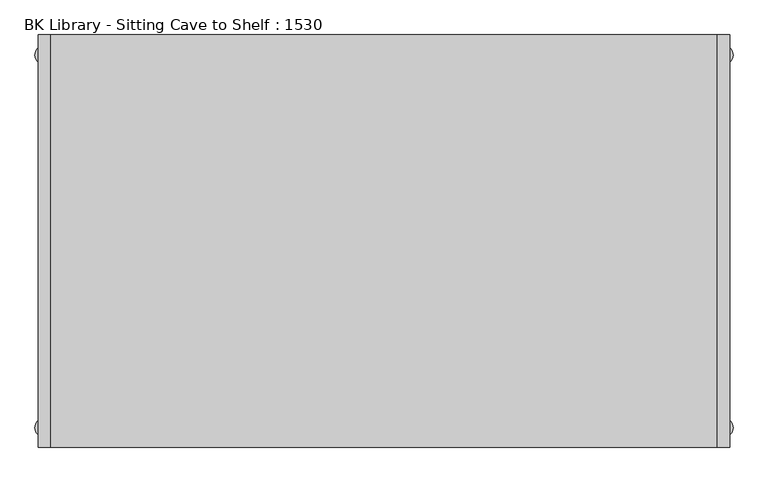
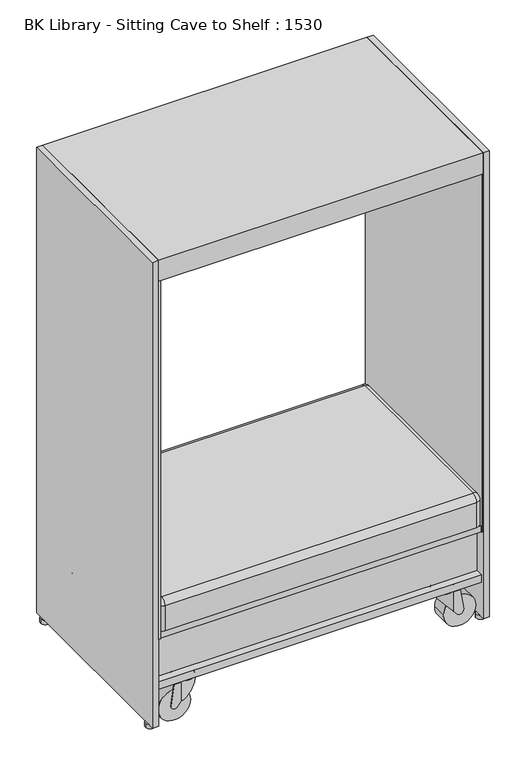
"""IFC4 building model written with IfcOpenShell, lengths in millimetres: furniture geometry, BK Library - Sitting Cave to Shelf : 1530."""

from ifc_helpers import new_model, si_unit, point, frame, frame_2d, origin, origin_with_axes, place, context, project, spatial, polyline, circle_curve, ellipse_curve, trimmed, segment, composite_curve, outline, extrude, source, transform, mapped, element, save
from ifc_brep_helpers import plane_surface, cylinder_surface, revolved_surface, advanced_brep


def bk_library_sitting_cave_to_shelf_1530_a43be609(model_context):
    return source(origin(), model_context, "Body", "SolidModel", [
        extrude(outline(polyline([(-495.0, -310.0), (-500.0, -310.0), (-500.0, 310.0), (-495.0, 310.0), (-495.0, -310.0)])), frame((0.0, 0.0, 297.2000122), z_axis=(0.0, 0.0, 1.0), x_axis=(1.0, 0.0, 0.0)), (0.0, 0.0, 1.0), 1164.7999878),
        extrude(outline(polyline([(500.0, -310.0), (495.0, -310.0), (495.0, 310.0), (500.0, 310.0), (500.0, -310.0)])), frame((0.0, 0.0, 297.2000122), z_axis=(0.0, 0.0, 1.0), x_axis=(1.0, 0.0, 0.0)), (0.0, 0.0, 1.0), 1164.7999878),
        advanced_brep(
        [(441.5692168, 239.3557934, 116.3900038), (396.5692168, 239.3557934, 116.3900038), (396.5692168, 239.3557934, 81.8416749), (430.7173665, 239.3557934, 41.8401668), (451.0862367, 239.3557934, 51.0748876), (441.5692168, 290.2974347, 116.3900038), (451.0862367, 290.2974347, 51.0748876), (430.7173665, 290.2974347, 41.8401668), (396.5692168, 290.2974347, 81.8416749), (396.5692168, 290.2974347, 116.3900038), (430.7173665, 287.9389408, 41.8401668), (404.1507804, 287.9389408, 72.9605501), (404.1507804, 241.7142873, 72.9605501), (430.7173665, 241.7142873, 41.8401668), (451.0862367, 241.7142873, 51.0748876), (451.0862367, 287.9389408, 51.0748876), (441.9320335, 241.7142873, 113.8999998), (441.9320335, 287.9389408, 113.8999998), (404.1507804, 287.9389408, 113.8999998), (404.1507804, 241.7142873, 113.8999998)],
        [
            (0, 1),
            (1, 2),
            (2, 3),
            (3, 4, circle_curve(frame((439.5692324, 239.3557934, 49.3967529), z_axis=(0.0, -1.0, 0.0), x_axis=(1.0, 0.0, 0.0)), 11.6386221)),
            (4, 0),
            (5, 6),
            (6, 7, circle_curve(frame((439.5692324, 290.2974347, 49.3967529), z_axis=(0.0, 1.0, 0.0), x_axis=(1.0, 0.0, 0.0)), 11.6386221)),
            (7, 8),
            (8, 9),
            (9, 5),
            (0, 5),
            (9, 1),
            (8, 2),
            (7, 10),
            (10, 11),
            (11, 12),
            (12, 13),
            (13, 3),
            (13, 14, circle_curve(frame((439.5692324, 241.7142873, 49.3967529), z_axis=(0.0, -1.0, 0.0), x_axis=(1.0, 0.0, 0.0)), 11.6386221)),
            (14, 4),
            (6, 15),
            (15, 10, circle_curve(frame((439.5692324, 287.9389408, 49.3967529), z_axis=(0.0, 1.0, 0.0), x_axis=(1.0, 0.0, 0.0)), 11.6386221)),
            (14, 16),
            (16, 17),
            (17, 15),
            (18, 19),
            (19, 12),
            (11, 18),
            (19, 16),
            (18, 17),
        ],
        [
            plane_surface(frame((441.5692168, 239.3557934, 116.3900038), z_axis=(0.0, -1.0, 0.0), x_axis=(-1.0, 0.0, 0.0))),
            plane_surface(frame((441.5692168, 290.2974347, 116.3900038), z_axis=(0.0, 1.0, 0.0), x_axis=(1.0, 0.0, 0.0))),
            plane_surface(frame((441.5692168, 239.3557934, 116.3900038), z_axis=(0.0, 0.0, 1.0), x_axis=(0.0, 1.0, 0.0))),
            plane_surface(frame((396.5692168, 239.3557934, 116.3900038), z_axis=(-1.0, 0.0, 0.0), x_axis=(0.0, 1.0, 0.0))),
            plane_surface(frame((396.5692168, 239.3557934, 81.8416749), z_axis=(-0.76055961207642, 0.0, -0.649268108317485), x_axis=(0.0, 1.0, 0.0))),
            cylinder_surface(frame((439.5692324, 290.2974347, 49.3967529), z_axis=(0.0, -1.0, 0.0), x_axis=(1.0, 0.0, 0.0)), 11.6386221),
            plane_surface(frame((451.0862367, 239.3557934, 51.0748876), z_axis=(0.9895505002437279, 0.0, 0.14418671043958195), x_axis=(0.0, 1.0, 0.0))),
            plane_surface(frame((404.1507804, 287.9389408, 11.6999998), z_axis=(1.0, 0.0, 0.0), x_axis=(0.0, -1.0, 0.0))),
            plane_surface(frame((465.1635235, 241.7142873, 113.8999998), z_axis=(0.0, 1.0, 0.0), x_axis=(-1.0, 0.0, 0.0))),
            plane_surface(frame((465.1635235, 287.9389408, 113.8999998), z_axis=(0.0, 0.0, -1.0), x_axis=(-1.0, 0.0, 0.0))),
            plane_surface(frame((465.1635235, 287.9389408, 11.6999998), z_axis=(0.0, -1.0, 0.0), x_axis=(-1.0, 0.0, 0.0))),
        ],
        [
            (0, [[1, 2, 3, 4, 5]]),
            (1, [[6, 7, 8, 9, 10]]),
            (2, [[-1, 11, -10, 12]]),
            (3, [[-2, -12, -9, 13]]),
            (4, [[-3, -13, -8, 14, 15, 16, 17, 18]]),
            (5, [[-4, -18, 19, 20]]),
            (5, [[-7, 21, 22, -14]]),
            (6, [[-5, -20, 23, 24, 25, -21, -6, -11]]),
            (7, [[26, 27, -16, 28]]),
            (8, [[-27, 29, -23, -19, -17]]),
            (9, [[-26, 30, -24, -29]]),
            (10, [[-28, -15, -22, -25, -30]]),
        ],
    ),
        advanced_brep(
        [(367.1443326, 264.8730954, 121.6226045), (432.1265574, 264.8730954, 121.6226045), (432.1265574, 264.8730954, 44.4908375), (428.4545643, 279.8774531, 44.4908375), (369.8467405, 277.8463552, 113.1446696), (367.1443326, 264.8730954, 113.1446696), (369.8467405, 251.8998355, 113.1446696), (428.4545643, 249.8687376, 44.4908375), (428.4545643, 264.8730954, 44.4908375), (425.1265574, 264.8730954, 128.6226045), (374.1443326, 264.8730954, 128.6226045), (399.635445, 264.8730954, 128.6226045)],
        [
            (0, 1, circle_curve(frame((399.635445, 264.8730954, 121.6226045), z_axis=(0.0, 0.0, -1.0), x_axis=(-1.0, 0.0, 0.0)), 32.4911124)),
            (1, 2),
            (2, 3, circle_curve(frame((399.635445, 264.8730954, 44.4908375), z_axis=(0.0, 0.0, 1.0), x_axis=(-1.0, 0.0, 0.0)), 32.4911124)),
            (3, 4, ellipse_curve(frame((399.635445, 264.8730954, 78.2498623), z_axis=(0.76055961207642, 0.0, 0.649268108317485), x_axis=(0.649268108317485, 0.0, -0.76055961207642)), 50.0426742, 32.4911124)),
            (4, 5, circle_curve(frame((399.635445, 264.8730954, 113.1446696), z_axis=(0.0, 0.0, 1.0), x_axis=(-1.0, 0.0, 0.0)), 32.4911124)),
            (5, 0),
            (1, 0, circle_curve(frame((399.635445, 264.8730954, 121.6226045), z_axis=(0.0, 0.0, -1.0), x_axis=(-1.0, 0.0, 0.0)), 32.4911124)),
            (5, 6, circle_curve(frame((399.635445, 264.8730954, 113.1446696), z_axis=(0.0, 0.0, 1.0), x_axis=(-1.0, 0.0, 0.0)), 32.4911124)),
            (6, 7, ellipse_curve(frame((399.635445, 264.8730954, 78.2498623), z_axis=(0.76055961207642, 0.0, 0.649268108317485), x_axis=(0.649268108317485, 0.0, -0.76055961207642)), 50.0426742, 32.4911124)),
            (7, 2, circle_curve(frame((399.635445, 264.8730954, 44.4908375), z_axis=(0.0, 0.0, 1.0), x_axis=(-1.0, 0.0, 0.0)), 32.4911124)),
            (2, 8),
            (8, 3),
            (7, 8),
            (9, 10, circle_curve(frame((399.635445, 264.8730954, 128.6226045), z_axis=(0.0, 0.0, 1.0), x_axis=(-1.0, 0.0, 0.0)), 25.4911124)),
            (10, 11),
            (11, 9),
            (10, 9, circle_curve(frame((399.635445, 264.8730954, 128.6226045), z_axis=(0.0, 0.0, 1.0), x_axis=(-1.0, 0.0, 0.0)), 25.4911124)),
            (0, 10, circle_curve(frame((374.1443326, 264.8730954, 121.6226045), z_axis=(0.0, 1.0, 0.0), x_axis=(1.0, 0.0, 0.0)), 7.0)),
            (9, 1, circle_curve(frame((425.1265574, 264.8730954, 121.6226045), z_axis=(0.0, 1.0, 0.0), x_axis=(-1.0, 0.0, 0.0)), 7.0)),
            (6, 4),
        ],
        [
            cylinder_surface(frame((399.635445, 264.8730954, 133.8335618), z_axis=(0.0, 0.0, -1.0), x_axis=(-1.0, 0.0, 0.0)), 32.4911124),
            plane_surface(frame((399.635445, 264.8730954, 44.4908375), z_axis=(0.0, 0.0, -1.0), x_axis=(-1.0, 0.0, 0.0))),
            plane_surface(frame((399.635445, 264.8730954, 128.6226045), z_axis=(0.0, 0.0, 1.0), x_axis=(-1.0, 0.0, 0.0))),
            revolved_surface(trimmed(ellipse_curve(frame((374.1443326, 264.8730954, 121.6226045), z_axis=(0.0, -1.0, 0.0), x_axis=(1.0, 0.0, 0.0)), 7.0, 7.0), [point((374.1443326, 264.8730954, 128.6226045))], [point((367.1443326, 264.8730954, 121.6226045))], True, "CARTESIAN"), (399.635445, 264.8730954, 133.8335618), (0.0, 0.0, -1.0)),
            plane_surface(frame((430.7448827, 182.3708518, 41.807934), z_axis=(-0.76055961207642, 0.0, -0.649268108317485), x_axis=(0.0, 1.0, 0.0))),
            plane_surface(frame((369.8467405, 182.3708518, 113.1446696), z_axis=(0.0, 0.0, -1.0), x_axis=(0.0, 1.0, 0.0))),
        ],
        [
            (0, [[1, 2, 3, 4, 5, 6]]),
            (0, [[-2, 7, -6, 8, 9, 10]]),
            (1, [[-3, 11, 12]]),
            (1, [[-11, -10, 13]]),
            (2, [[14, 15, 16]]),
            (2, [[-15, 17, -16]]),
            (3, [[-1, 18, -14, 19]]),
            (3, [[-7, -19, -17, -18]]),
            (4, [[20, -4, -12, -13, -9]]),
            (5, [[-20, -8, -5]]),
        ],
    ),
        extrude(outline(composite_curve([segment(trimmed(circle_curve(frame_2d((49.3999998, -439.6510071)), 50.0), [point((49.3999998, -389.6510071))], [point((49.3999998, -489.6510071))], False, "CARTESIAN"), True, "CONTINUOUS"), segment(trimmed(circle_curve(frame_2d((49.3999998, -439.6510071)), 50.0), [point((49.3999998, -489.6510071))], [point((49.3999998, -389.6510071))], False, "CARTESIAN"), True, "CONTINUOUS")], self_intersect=False)), frame((0.0, 241.7142873, 0.0), z_axis=(0.0, 1.0, 0.0), x_axis=(0.0, 0.0, 1.0)), (0.0, 0.0, 1.0), 46.2857127),
        advanced_brep(
        [(441.5692168, -239.3557934, 116.3900038), (451.0862367, -239.3557934, 51.0748876), (430.7173665, -239.3557934, 41.8401668), (396.5692168, -239.3557934, 81.8416749), (396.5692168, -239.3557934, 116.3900038), (441.5692168, -290.2974347, 116.3900038), (396.5692168, -290.2974347, 116.3900038), (396.5692168, -290.2974347, 81.8416749), (430.7173665, -290.2974347, 41.8401668), (451.0862367, -290.2974347, 51.0748876), (430.7173665, -241.7142873, 41.8401668), (404.1507804, -241.7142873, 72.9605501), (404.1507804, -287.9389408, 72.9605501), (430.7173665, -287.9389408, 41.8401668), (451.0862367, -241.7142873, 51.0748876), (451.0862367, -287.9389408, 51.0748876), (441.9320335, -287.9389408, 113.8999998), (441.9320335, -241.7142873, 113.8999998), (404.1507804, -241.7142873, 113.8999998), (404.1507804, -287.9389408, 113.8999998)],
        [
            (0, 1),
            (1, 2, circle_curve(frame((439.5692324, -239.3557934, 49.3967529), z_axis=(0.0, 1.0, 0.0), x_axis=(1.0, 0.0, 0.0)), 11.6386221)),
            (2, 3),
            (3, 4),
            (4, 0),
            (5, 6),
            (6, 7),
            (7, 8),
            (8, 9, circle_curve(frame((439.5692324, -290.2974347, 49.3967529), z_axis=(0.0, -1.0, 0.0), x_axis=(1.0, 0.0, 0.0)), 11.6386221)),
            (9, 5),
            (4, 6),
            (5, 0),
            (3, 7),
            (2, 10),
            (10, 11),
            (11, 12),
            (12, 13),
            (13, 8),
            (1, 14),
            (14, 10, circle_curve(frame((439.5692324, -241.7142873, 49.3967529), z_axis=(0.0, 1.0, 0.0), x_axis=(1.0, 0.0, 0.0)), 11.6386221)),
            (13, 15, circle_curve(frame((439.5692324, -287.9389408, 49.3967529), z_axis=(0.0, -1.0, 0.0), x_axis=(1.0, 0.0, 0.0)), 11.6386221)),
            (15, 9),
            (15, 16),
            (16, 17),
            (17, 14),
            (18, 19),
            (19, 12),
            (11, 18),
            (17, 18),
            (16, 19),
        ],
        [
            plane_surface(frame((451.0874735, -239.3557934, 51.0663993), z_axis=(0.0, 1.0, 0.0), x_axis=(0.14418671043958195, 0.0, -0.9895505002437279))),
            plane_surface(frame((451.0874735, -290.2974347, 51.0663993), z_axis=(0.0, -1.0, 0.0), x_axis=(-0.14418671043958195, 0.0, 0.9895505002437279))),
            plane_surface(frame((396.5692168, -239.3557934, 116.3900038), z_axis=(0.0, 0.0, 1.0), x_axis=(0.0, -1.0, 0.0))),
            plane_surface(frame((396.5692168, -239.3557934, 81.8416749), z_axis=(-1.0, 0.0, 0.0), x_axis=(0.0, -1.0, 0.0))),
            plane_surface(frame((430.7173665, -239.3557934, 41.8401668), z_axis=(-0.76055961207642, 0.0, -0.649268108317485), x_axis=(0.0, -1.0, 0.0))),
            cylinder_surface(frame((439.5692324, -290.2974347, 49.3967529), z_axis=(0.0, 1.0, 0.0), x_axis=(1.0, 0.0, 0.0)), 11.6386221),
            plane_surface(frame((441.5692168, -239.3557934, 116.3900038), z_axis=(0.9895505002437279, 0.0, 0.14418671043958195), x_axis=(0.0, -1.0, 0.0))),
            plane_surface(frame((404.1507804, -241.7142873, 116.3900038), z_axis=(1.0, 0.0, 0.0), x_axis=(0.0, 0.0, -1.0))),
            plane_surface(frame((465.1635235, -241.7142873, 11.6999998), z_axis=(0.0, -1.0, 0.0), x_axis=(-1.0, 0.0, 0.0))),
            plane_surface(frame((465.1635235, -241.7142873, 113.8999998), z_axis=(0.0, 0.0, -1.0), x_axis=(-1.0, 0.0, 0.0))),
            plane_surface(frame((465.1635235, -287.9389408, 113.8999998), z_axis=(0.0, 1.0, 0.0), x_axis=(-1.0, 0.0, 0.0))),
        ],
        [
            (0, [[1, 2, 3, 4, 5]]),
            (1, [[6, 7, 8, 9, 10]]),
            (2, [[-5, 11, -6, 12]]),
            (3, [[-4, 13, -7, -11]]),
            (4, [[-3, 14, 15, 16, 17, 18, -8, -13]]),
            (5, [[-2, 19, 20, -14]]),
            (5, [[-9, -18, 21, 22]]),
            (6, [[-1, -12, -10, -22, 23, 24, 25, -19]]),
            (7, [[26, 27, -16, 28]]),
            (8, [[-28, -15, -20, -25, 29]]),
            (9, [[-26, -29, -24, 30]]),
            (10, [[-27, -30, -23, -21, -17]]),
        ],
    ),
        advanced_brep(
        [(432.1265574, -264.8730954, 121.6226045), (367.1443326, -264.8730954, 121.6226045), (367.1443326, -264.8730954, 113.1446696), (369.8467405, -277.8463552, 113.1446696), (428.4545643, -279.8774531, 44.4908375), (432.1265574, -264.8730954, 44.4908375), (428.4545643, -249.8687376, 44.4908375), (369.8467405, -251.8998355, 113.1446696), (428.4545643, -264.8730954, 44.4908375), (399.635445, -264.8730954, 128.6226045), (374.1443326, -264.8730954, 128.6226045), (425.1265574, -264.8730954, 128.6226045)],
        [
            (0, 1, circle_curve(frame((399.635445, -264.8730954, 121.6226045), z_axis=(0.0, 0.0, -1.0), x_axis=(-1.0, 0.0, 0.0)), 32.4911124)),
            (1, 2),
            (2, 3, circle_curve(frame((399.635445, -264.8730954, 113.1446696), z_axis=(0.0, 0.0, 1.0), x_axis=(-1.0, 0.0, 0.0)), 32.4911124)),
            (3, 4, ellipse_curve(frame((399.635445, -264.8730954, 78.2498623), z_axis=(0.76055961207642, 0.0, 0.649268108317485), x_axis=(-0.649268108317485, 0.0, 0.76055961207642)), 50.0426742, 32.4911124)),
            (4, 5, circle_curve(frame((399.635445, -264.8730954, 44.4908375), z_axis=(0.0, 0.0, 1.0), x_axis=(-1.0, 0.0, 0.0)), 32.4911124)),
            (5, 0),
            (5, 6, circle_curve(frame((399.635445, -264.8730954, 44.4908375), z_axis=(0.0, 0.0, 1.0), x_axis=(-1.0, 0.0, 0.0)), 32.4911124)),
            (6, 7, ellipse_curve(frame((399.635445, -264.8730954, 78.2498623), z_axis=(0.76055961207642, 0.0, 0.649268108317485), x_axis=(-0.649268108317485, 0.0, 0.76055961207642)), 50.0426742, 32.4911124)),
            (7, 2, circle_curve(frame((399.635445, -264.8730954, 113.1446696), z_axis=(0.0, 0.0, 1.0), x_axis=(-1.0, 0.0, 0.0)), 32.4911124)),
            (1, 0, circle_curve(frame((399.635445, -264.8730954, 121.6226045), z_axis=(0.0, 0.0, -1.0), x_axis=(-1.0, 0.0, 0.0)), 32.4911124)),
            (4, 8),
            (8, 5),
            (8, 6),
            (9, 10),
            (10, 11, circle_curve(frame((399.635445, -264.8730954, 128.6226045), z_axis=(0.0, 0.0, 1.0), x_axis=(-1.0, 0.0, 0.0)), 25.4911124)),
            (11, 9),
            (11, 10, circle_curve(frame((399.635445, -264.8730954, 128.6226045), z_axis=(0.0, 0.0, 1.0), x_axis=(-1.0, 0.0, 0.0)), 25.4911124)),
            (0, 11, circle_curve(frame((425.1265574, -264.8730954, 121.6226045), z_axis=(0.0, -1.0, 0.0), x_axis=(-1.0, 0.0, 0.0)), 7.0)),
            (10, 1, circle_curve(frame((374.1443326, -264.8730954, 121.6226045), z_axis=(0.0, -1.0, 0.0), x_axis=(1.0, 0.0, 0.0)), 7.0)),
            (3, 7),
        ],
        [
            cylinder_surface(frame((399.635445, -264.8730954, 133.8335618), z_axis=(0.0, 0.0, 1.0), x_axis=(-1.0, 0.0, 0.0)), 32.4911124),
            plane_surface(frame((399.635445, -264.8730954, 44.4908375), z_axis=(0.0, 0.0, -1.0), x_axis=(-1.0, 0.0, 0.0))),
            plane_surface(frame((399.635445, -264.8730954, 128.6226045), z_axis=(0.0, 0.0, 1.0), x_axis=(-1.0, 0.0, 0.0))),
            revolved_surface(trimmed(ellipse_curve(frame((374.1443326, -264.8730954, 121.6226045), z_axis=(0.0, 1.0, 0.0), x_axis=(1.0, 0.0, 0.0)), 7.0, 7.0), [point((367.1443326, -264.8730954, 121.6226045))], [point((374.1443326, -264.8730954, 128.6226045))], True, "CARTESIAN"), (399.635445, -264.8730954, 133.8335618), (0.0, 0.0, 1.0)),
            plane_surface(frame((369.8467405, -182.3708518, 113.1446696), z_axis=(-0.76055961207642, 0.0, -0.649268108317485), x_axis=(0.0, -1.0, 0.0))),
            plane_surface(frame((358.5196085, -182.3708518, 113.1446696), z_axis=(0.0, 0.0, -1.0), x_axis=(0.0, -1.0, 0.0))),
        ],
        [
            (0, [[1, 2, 3, 4, 5, 6]]),
            (0, [[-6, 7, 8, 9, -2, 10]]),
            (1, [[-5, 11, 12]]),
            (1, [[-7, -12, 13]]),
            (2, [[14, 15, 16]]),
            (2, [[-14, -16, 17]]),
            (3, [[-1, 18, -15, 19]]),
            (3, [[-10, -19, -17, -18]]),
            (4, [[20, -8, -13, -11, -4]]),
            (5, [[-20, -3, -9]]),
        ],
    ),
        extrude(outline(composite_curve([segment(trimmed(circle_curve(frame_2d((399.635445, 264.8421776)), 10.0), [point((389.635445, 264.8421776))], [point((409.635445, 264.8421776))], False, "CARTESIAN"), True, "CONTINUOUS"), segment(trimmed(circle_curve(frame_2d((399.635445, 264.8421776)), 10.0), [point((409.635445, 264.8421776))], [point((389.635445, 264.8421776))], False, "CARTESIAN"), True, "CONTINUOUS")], self_intersect=False)), frame((0.0, 0.0, 126.1999998), z_axis=(0.0, 0.0, 1.0), x_axis=(1.0, 0.0, 0.0)), (0.0, 0.0, 1.0), 24.8998986),
        extrude(outline(composite_curve([segment(trimmed(circle_curve(frame_2d((49.3999998, 439.6510071)), 50.0), [point((49.3999998, 389.6510071))], [point((49.3999998, 489.6510071))], False, "CARTESIAN"), True, "CONTINUOUS"), segment(trimmed(circle_curve(frame_2d((49.3999998, 439.6510071)), 50.0), [point((49.3999998, 489.6510071))], [point((49.3999998, 389.6510071))], False, "CARTESIAN"), True, "CONTINUOUS")], self_intersect=False)), frame((0.0, 241.7142873, 0.0), z_axis=(0.0, 1.0, 0.0), x_axis=(0.0, 0.0, 1.0)), (0.0, 0.0, 1.0), 46.2857127),
        extrude(outline(composite_curve([segment(trimmed(circle_curve(frame_2d((399.635445, -264.8421776)), 10.0), [point((389.635445, -264.8421776))], [point((409.635445, -264.8421776))], False, "CARTESIAN"), True, "CONTINUOUS"), segment(trimmed(circle_curve(frame_2d((399.635445, -264.8421776)), 10.0), [point((409.635445, -264.8421776))], [point((389.635445, -264.8421776))], False, "CARTESIAN"), True, "CONTINUOUS")], self_intersect=False)), frame((0.0, 0.0, 126.1999998), z_axis=(0.0, 0.0, 1.0), x_axis=(1.0, 0.0, 0.0)), (0.0, 0.0, 1.0), 24.8998986),
        extrude(outline(composite_curve([segment(trimmed(circle_curve(frame_2d((49.3999998, 439.6510071)), 50.0), [point((49.3999998, 389.6510071))], [point((49.3999998, 489.6510071))], False, "CARTESIAN"), True, "CONTINUOUS"), segment(trimmed(circle_curve(frame_2d((49.3999998, 439.6510071)), 50.0), [point((49.3999998, 489.6510071))], [point((49.3999998, 389.6510071))], False, "CARTESIAN"), True, "CONTINUOUS")], self_intersect=False)), frame((0.0, -288.0, 0.0), z_axis=(0.0, 1.0, 0.0), x_axis=(0.0, 0.0, 1.0)), (0.0, 0.0, 1.0), 46.2857127),
        advanced_brep(
        [(-441.5692168, 239.3557934, 116.3900038), (-451.0862367, 239.3557934, 51.0748876), (-430.7173665, 239.3557934, 41.8401668), (-396.5692168, 239.3557934, 81.8416749), (-396.5692168, 239.3557934, 116.3900038), (-441.5692168, 290.2974347, 116.3900038), (-396.5692168, 290.2974347, 116.3900038), (-396.5692168, 290.2974347, 81.8416749), (-430.7173665, 290.2974347, 41.8401668), (-451.0862367, 290.2974347, 51.0748876), (-430.7173665, 241.7142873, 41.8401668), (-404.1507804, 241.7142873, 72.9605501), (-404.1507804, 287.9389408, 72.9605501), (-430.7173665, 287.9389408, 41.8401668), (-451.0862367, 241.7142873, 51.0748876), (-451.0862367, 287.9389408, 51.0748876), (-441.9320335, 287.9389408, 113.8999998), (-441.9320335, 241.7142873, 113.8999998), (-404.1507804, 241.7142873, 113.8999998), (-404.1507804, 287.9389408, 113.8999998)],
        [
            (0, 1),
            (1, 2, circle_curve(frame((-439.5692324, 239.3557934, 49.3967529), z_axis=(0.0, -1.0, 0.0), x_axis=(-1.0, 0.0, 0.0)), 11.6386221)),
            (2, 3),
            (3, 4),
            (4, 0),
            (5, 6),
            (6, 7),
            (7, 8),
            (8, 9, circle_curve(frame((-439.5692324, 290.2974347, 49.3967529), z_axis=(0.0, 1.0, 0.0), x_axis=(-1.0, 0.0, 0.0)), 11.6386221)),
            (9, 5),
            (4, 6),
            (5, 0),
            (3, 7),
            (2, 10),
            (10, 11),
            (11, 12),
            (12, 13),
            (13, 8),
            (1, 14),
            (14, 10, circle_curve(frame((-439.5692324, 241.7142873, 49.3967529), z_axis=(0.0, -1.0, 0.0), x_axis=(-1.0, 0.0, 0.0)), 11.6386221)),
            (13, 15, circle_curve(frame((-439.5692324, 287.9389408, 49.3967529), z_axis=(0.0, 1.0, 0.0), x_axis=(-1.0, 0.0, 0.0)), 11.6386221)),
            (15, 9),
            (15, 16),
            (16, 17),
            (17, 14),
            (18, 19),
            (19, 12),
            (11, 18),
            (17, 18),
            (16, 19),
        ],
        [
            plane_surface(frame((-451.0874735, 239.3557934, 51.0663993), z_axis=(0.0, -1.0, 0.0), x_axis=(-0.14418671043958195, 0.0, -0.9895505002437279))),
            plane_surface(frame((-451.0874735, 290.2974347, 51.0663993), z_axis=(0.0, 1.0, 0.0), x_axis=(0.14418671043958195, 0.0, 0.9895505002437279))),
            plane_surface(frame((-396.5692168, 239.3557934, 116.3900038), z_axis=(0.0, 0.0, 1.0), x_axis=(0.0, 1.0, 0.0))),
            plane_surface(frame((-396.5692168, 239.3557934, 81.8416749), z_axis=(1.0, 0.0, 0.0), x_axis=(0.0, 1.0, 0.0))),
            plane_surface(frame((-430.7173665, 239.3557934, 41.8401668), z_axis=(0.76055961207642, 0.0, -0.649268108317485), x_axis=(0.0, 1.0, 0.0))),
            cylinder_surface(frame((-439.5692324, 290.2974347, 49.3967529), z_axis=(0.0, -1.0, 0.0), x_axis=(-1.0, 0.0, 0.0)), 11.6386221),
            plane_surface(frame((-441.5692168, 239.3557934, 116.3900038), z_axis=(-0.9895505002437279, 0.0, 0.14418671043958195), x_axis=(0.0, 1.0, 0.0))),
            plane_surface(frame((-404.1507804, 241.7142873, 116.3900038), z_axis=(-1.0, 0.0, 0.0), x_axis=(0.0, 0.0, -1.0))),
            plane_surface(frame((-465.1635235, 241.7142873, 11.6999998), z_axis=(0.0, 1.0, 0.0), x_axis=(1.0, 0.0, 0.0))),
            plane_surface(frame((-465.1635235, 241.7142873, 113.8999998), z_axis=(0.0, 0.0, -1.0), x_axis=(1.0, 0.0, 0.0))),
            plane_surface(frame((-465.1635235, 287.9389408, 113.8999998), z_axis=(0.0, -1.0, 0.0), x_axis=(1.0, 0.0, 0.0))),
        ],
        [
            (0, [[1, 2, 3, 4, 5]]),
            (1, [[6, 7, 8, 9, 10]]),
            (2, [[-5, 11, -6, 12]]),
            (3, [[-4, 13, -7, -11]]),
            (4, [[-3, 14, 15, 16, 17, 18, -8, -13]]),
            (5, [[-2, 19, 20, -14]]),
            (5, [[-9, -18, 21, 22]]),
            (6, [[-1, -12, -10, -22, 23, 24, 25, -19]]),
            (7, [[26, 27, -16, 28]]),
            (8, [[-28, -15, -20, -25, 29]]),
            (9, [[-26, -29, -24, 30]]),
            (10, [[-27, -30, -23, -21, -17]]),
        ],
    ),
        advanced_brep(
        [(-432.1265574, 264.8730954, 121.6226045), (-367.1443326, 264.8730954, 121.6226045), (-367.1443326, 264.8730954, 113.1446696), (-369.8467405, 277.8463552, 113.1446696), (-428.4545643, 279.8774531, 44.4908375), (-432.1265574, 264.8730954, 44.4908375), (-428.4545643, 249.8687376, 44.4908375), (-369.8467405, 251.8998355, 113.1446696), (-428.4545643, 264.8730954, 44.4908375), (-399.635445, 264.8730954, 128.6226045), (-374.1443326, 264.8730954, 128.6226045), (-425.1265574, 264.8730954, 128.6226045)],
        [
            (0, 1, circle_curve(frame((-399.635445, 264.8730954, 121.6226045), z_axis=(0.0, 0.0, -1.0), x_axis=(1.0, 0.0, 0.0)), 32.4911124)),
            (1, 2),
            (2, 3, circle_curve(frame((-399.635445, 264.8730954, 113.1446696), z_axis=(0.0, 0.0, 1.0), x_axis=(1.0, 0.0, 0.0)), 32.4911124)),
            (3, 4, ellipse_curve(frame((-399.635445, 264.8730954, 78.2498623), z_axis=(-0.76055961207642, 0.0, 0.649268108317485), x_axis=(0.649268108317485, 0.0, 0.76055961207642)), 50.0426742, 32.4911124)),
            (4, 5, circle_curve(frame((-399.635445, 264.8730954, 44.4908375), z_axis=(0.0, 0.0, 1.0), x_axis=(1.0, 0.0, 0.0)), 32.4911124)),
            (5, 0),
            (5, 6, circle_curve(frame((-399.635445, 264.8730954, 44.4908375), z_axis=(0.0, 0.0, 1.0), x_axis=(1.0, 0.0, 0.0)), 32.4911124)),
            (6, 7, ellipse_curve(frame((-399.635445, 264.8730954, 78.2498623), z_axis=(-0.76055961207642, 0.0, 0.649268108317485), x_axis=(0.649268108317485, 0.0, 0.76055961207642)), 50.0426742, 32.4911124)),
            (7, 2, circle_curve(frame((-399.635445, 264.8730954, 113.1446696), z_axis=(0.0, 0.0, 1.0), x_axis=(1.0, 0.0, 0.0)), 32.4911124)),
            (1, 0, circle_curve(frame((-399.635445, 264.8730954, 121.6226045), z_axis=(0.0, 0.0, -1.0), x_axis=(1.0, 0.0, 0.0)), 32.4911124)),
            (4, 8),
            (8, 5),
            (8, 6),
            (9, 10),
            (10, 11, circle_curve(frame((-399.635445, 264.8730954, 128.6226045), z_axis=(0.0, 0.0, 1.0), x_axis=(1.0, 0.0, 0.0)), 25.4911124)),
            (11, 9),
            (11, 10, circle_curve(frame((-399.635445, 264.8730954, 128.6226045), z_axis=(0.0, 0.0, 1.0), x_axis=(1.0, 0.0, 0.0)), 25.4911124)),
            (0, 11, circle_curve(frame((-425.1265574, 264.8730954, 121.6226045), z_axis=(0.0, 1.0, 0.0), x_axis=(1.0, 0.0, 0.0)), 7.0)),
            (10, 1, circle_curve(frame((-374.1443326, 264.8730954, 121.6226045), z_axis=(0.0, 1.0, 0.0), x_axis=(-1.0, 0.0, 0.0)), 7.0)),
            (3, 7),
        ],
        [
            cylinder_surface(frame((-399.635445, 264.8730954, 133.8335618), z_axis=(0.0, 0.0, 1.0), x_axis=(1.0, 0.0, 0.0)), 32.4911124),
            plane_surface(frame((-399.635445, 264.8730954, 44.4908375), z_axis=(0.0, 0.0, -1.0), x_axis=(1.0, 0.0, 0.0))),
            plane_surface(frame((-399.635445, 264.8730954, 128.6226045), z_axis=(0.0, 0.0, 1.0), x_axis=(1.0, 0.0, 0.0))),
            revolved_surface(trimmed(ellipse_curve(frame((-374.1443326, 264.8730954, 121.6226045), z_axis=(0.0, -1.0, 0.0), x_axis=(-1.0, 0.0, 0.0)), 7.0, 7.0), [point((-367.1443326, 264.8730954, 121.6226045))], [point((-374.1443326, 264.8730954, 128.6226045))], True, "CARTESIAN"), (-399.635445, 264.8730954, 133.8335618), (0.0, 0.0, 1.0)),
            plane_surface(frame((-369.8467405, 182.3708518, 113.1446696), z_axis=(0.76055961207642, 0.0, -0.649268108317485), x_axis=(0.0, 1.0, 0.0))),
            plane_surface(frame((-358.5196085, 182.3708518, 113.1446696), z_axis=(0.0, 0.0, -1.0), x_axis=(0.0, 1.0, 0.0))),
        ],
        [
            (0, [[1, 2, 3, 4, 5, 6]]),
            (0, [[-6, 7, 8, 9, -2, 10]]),
            (1, [[-5, 11, 12]]),
            (1, [[-7, -12, 13]]),
            (2, [[14, 15, 16]]),
            (2, [[-14, -16, 17]]),
            (3, [[-1, 18, -15, 19]]),
            (3, [[-10, -19, -17, -18]]),
            (4, [[20, -8, -13, -11, -4]]),
            (5, [[-20, -3, -9]]),
        ],
    ),
        extrude(outline(composite_curve([segment(trimmed(circle_curve(frame_2d((49.3999998, -439.6510071)), 50.0), [point((49.3999998, -389.6510071))], [point((49.3999998, -489.6510071))], False, "CARTESIAN"), True, "CONTINUOUS"), segment(trimmed(circle_curve(frame_2d((49.3999998, -439.6510071)), 50.0), [point((49.3999998, -489.6510071))], [point((49.3999998, -389.6510071))], False, "CARTESIAN"), True, "CONTINUOUS")], self_intersect=False)), frame((0.0, -288.0, 0.0), z_axis=(0.0, 1.0, 0.0), x_axis=(0.0, 0.0, 1.0)), (0.0, 0.0, 1.0), 46.2857127),
        extrude(outline(composite_curve([segment(trimmed(circle_curve(frame_2d((-399.635445, 264.8421776)), 10.0), [point((-389.635445, 264.8421776))], [point((-409.635445, 264.8421776))], False, "CARTESIAN"), True, "CONTINUOUS"), segment(trimmed(circle_curve(frame_2d((-399.635445, 264.8421776)), 10.0), [point((-409.635445, 264.8421776))], [point((-389.635445, 264.8421776))], False, "CARTESIAN"), True, "CONTINUOUS")], self_intersect=False)), frame((0.0, 0.0, 126.1999998), z_axis=(0.0, 0.0, 1.0), x_axis=(1.0, 0.0, 0.0)), (0.0, 0.0, 1.0), 24.8998986),
        advanced_brep(
        [(-441.5692168, -239.3557934, 116.3900038), (-396.5692168, -239.3557934, 116.3900038), (-396.5692168, -239.3557934, 81.8416749), (-430.7173665, -239.3557934, 41.8401668), (-451.0862367, -239.3557934, 51.0748876), (-441.5692168, -290.2974347, 116.3900038), (-451.0862367, -290.2974347, 51.0748876), (-430.7173665, -290.2974347, 41.8401668), (-396.5692168, -290.2974347, 81.8416749), (-396.5692168, -290.2974347, 116.3900038), (-430.7173665, -287.9389408, 41.8401668), (-404.1507804, -287.9389408, 72.9605501), (-404.1507804, -241.7142873, 72.9605501), (-430.7173665, -241.7142873, 41.8401668), (-451.0862367, -241.7142873, 51.0748876), (-451.0862367, -287.9389408, 51.0748876), (-441.9320335, -241.7142873, 113.8999998), (-441.9320335, -287.9389408, 113.8999998), (-404.1507804, -287.9389408, 113.8999998), (-404.1507804, -241.7142873, 113.8999998)],
        [
            (0, 1),
            (1, 2),
            (2, 3),
            (3, 4, circle_curve(frame((-439.5692324, -239.3557934, 49.3967529), z_axis=(0.0, 1.0, 0.0), x_axis=(-1.0, 0.0, 0.0)), 11.6386221)),
            (4, 0),
            (5, 6),
            (6, 7, circle_curve(frame((-439.5692324, -290.2974347, 49.3967529), z_axis=(0.0, -1.0, 0.0), x_axis=(-1.0, 0.0, 0.0)), 11.6386221)),
            (7, 8),
            (8, 9),
            (9, 5),
            (0, 5),
            (9, 1),
            (8, 2),
            (7, 10),
            (10, 11),
            (11, 12),
            (12, 13),
            (13, 3),
            (13, 14, circle_curve(frame((-439.5692324, -241.7142873, 49.3967529), z_axis=(0.0, 1.0, 0.0), x_axis=(-1.0, 0.0, 0.0)), 11.6386221)),
            (14, 4),
            (6, 15),
            (15, 10, circle_curve(frame((-439.5692324, -287.9389408, 49.3967529), z_axis=(0.0, -1.0, 0.0), x_axis=(-1.0, 0.0, 0.0)), 11.6386221)),
            (14, 16),
            (16, 17),
            (17, 15),
            (18, 19),
            (19, 12),
            (11, 18),
            (19, 16),
            (18, 17),
        ],
        [
            plane_surface(frame((-441.5692168, -239.3557934, 116.3900038), z_axis=(0.0, 1.0, 0.0), x_axis=(1.0, 0.0, 0.0))),
            plane_surface(frame((-441.5692168, -290.2974347, 116.3900038), z_axis=(0.0, -1.0, 0.0), x_axis=(-1.0, 0.0, 0.0))),
            plane_surface(frame((-441.5692168, -239.3557934, 116.3900038), z_axis=(0.0, 0.0, 1.0), x_axis=(0.0, -1.0, 0.0))),
            plane_surface(frame((-396.5692168, -239.3557934, 116.3900038), z_axis=(1.0, 0.0, 0.0), x_axis=(0.0, -1.0, 0.0))),
            plane_surface(frame((-396.5692168, -239.3557934, 81.8416749), z_axis=(0.76055961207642, 0.0, -0.649268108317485), x_axis=(0.0, -1.0, 0.0))),
            cylinder_surface(frame((-439.5692324, -290.2974347, 49.3967529), z_axis=(0.0, 1.0, 0.0), x_axis=(-1.0, 0.0, 0.0)), 11.6386221),
            plane_surface(frame((-451.0862367, -239.3557934, 51.0748876), z_axis=(-0.9895505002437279, 0.0, 0.14418671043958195), x_axis=(0.0, -1.0, 0.0))),
            plane_surface(frame((-404.1507804, -287.9389408, 11.6999998), z_axis=(-1.0, 0.0, 0.0), x_axis=(0.0, 1.0, 0.0))),
            plane_surface(frame((-465.1635235, -241.7142873, 113.8999998), z_axis=(0.0, -1.0, 0.0), x_axis=(1.0, 0.0, 0.0))),
            plane_surface(frame((-465.1635235, -287.9389408, 113.8999998), z_axis=(0.0, 0.0, -1.0), x_axis=(1.0, 0.0, 0.0))),
            plane_surface(frame((-465.1635235, -287.9389408, 11.6999998), z_axis=(0.0, 1.0, 0.0), x_axis=(1.0, 0.0, 0.0))),
        ],
        [
            (0, [[1, 2, 3, 4, 5]]),
            (1, [[6, 7, 8, 9, 10]]),
            (2, [[-1, 11, -10, 12]]),
            (3, [[-2, -12, -9, 13]]),
            (4, [[-3, -13, -8, 14, 15, 16, 17, 18]]),
            (5, [[-4, -18, 19, 20]]),
            (5, [[-7, 21, 22, -14]]),
            (6, [[-5, -20, 23, 24, 25, -21, -6, -11]]),
            (7, [[26, 27, -16, 28]]),
            (8, [[-27, 29, -23, -19, -17]]),
            (9, [[-26, 30, -24, -29]]),
            (10, [[-28, -15, -22, -25, -30]]),
        ],
    ),
        advanced_brep(
        [(-367.1443326, -264.8730954, 121.6226045), (-432.1265574, -264.8730954, 121.6226045), (-432.1265574, -264.8730954, 44.4908375), (-428.4545643, -279.8774531, 44.4908375), (-369.8467405, -277.8463552, 113.1446696), (-367.1443326, -264.8730954, 113.1446696), (-369.8467405, -251.8998355, 113.1446696), (-428.4545643, -249.8687376, 44.4908375), (-428.4545643, -264.8730954, 44.4908375), (-425.1265574, -264.8730954, 128.6226045), (-374.1443326, -264.8730954, 128.6226045), (-399.635445, -264.8730954, 128.6226045)],
        [
            (0, 1, circle_curve(frame((-399.635445, -264.8730954, 121.6226045), z_axis=(0.0, 0.0, -1.0), x_axis=(1.0, 0.0, 0.0)), 32.4911124)),
            (1, 2),
            (2, 3, circle_curve(frame((-399.635445, -264.8730954, 44.4908375), z_axis=(0.0, 0.0, 1.0), x_axis=(1.0, 0.0, 0.0)), 32.4911124)),
            (3, 4, ellipse_curve(frame((-399.635445, -264.8730954, 78.2498623), z_axis=(-0.76055961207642, 0.0, 0.649268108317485), x_axis=(-0.649268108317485, 0.0, -0.76055961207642)), 50.0426742, 32.4911124)),
            (4, 5, circle_curve(frame((-399.635445, -264.8730954, 113.1446696), z_axis=(0.0, 0.0, 1.0), x_axis=(1.0, 0.0, 0.0)), 32.4911124)),
            (5, 0),
            (1, 0, circle_curve(frame((-399.635445, -264.8730954, 121.6226045), z_axis=(0.0, 0.0, -1.0), x_axis=(1.0, 0.0, 0.0)), 32.4911124)),
            (5, 6, circle_curve(frame((-399.635445, -264.8730954, 113.1446696), z_axis=(0.0, 0.0, 1.0), x_axis=(1.0, 0.0, 0.0)), 32.4911124)),
            (6, 7, ellipse_curve(frame((-399.635445, -264.8730954, 78.2498623), z_axis=(-0.76055961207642, 0.0, 0.649268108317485), x_axis=(-0.649268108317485, 0.0, -0.76055961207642)), 50.0426742, 32.4911124)),
            (7, 2, circle_curve(frame((-399.635445, -264.8730954, 44.4908375), z_axis=(0.0, 0.0, 1.0), x_axis=(1.0, 0.0, 0.0)), 32.4911124)),
            (2, 8),
            (8, 3),
            (7, 8),
            (9, 10, circle_curve(frame((-399.635445, -264.8730954, 128.6226045), z_axis=(0.0, 0.0, 1.0), x_axis=(1.0, 0.0, 0.0)), 25.4911124)),
            (10, 11),
            (11, 9),
            (10, 9, circle_curve(frame((-399.635445, -264.8730954, 128.6226045), z_axis=(0.0, 0.0, 1.0), x_axis=(1.0, 0.0, 0.0)), 25.4911124)),
            (0, 10, circle_curve(frame((-374.1443326, -264.8730954, 121.6226045), z_axis=(0.0, -1.0, 0.0), x_axis=(-1.0, 0.0, 0.0)), 7.0)),
            (9, 1, circle_curve(frame((-425.1265574, -264.8730954, 121.6226045), z_axis=(0.0, -1.0, 0.0), x_axis=(1.0, 0.0, 0.0)), 7.0)),
            (6, 4),
        ],
        [
            cylinder_surface(frame((-399.635445, -264.8730954, 133.8335618), z_axis=(0.0, 0.0, -1.0), x_axis=(1.0, 0.0, 0.0)), 32.4911124),
            plane_surface(frame((-399.635445, -264.8730954, 44.4908375), z_axis=(0.0, 0.0, -1.0), x_axis=(1.0, 0.0, 0.0))),
            plane_surface(frame((-399.635445, -264.8730954, 128.6226045), z_axis=(0.0, 0.0, 1.0), x_axis=(1.0, 0.0, 0.0))),
            revolved_surface(trimmed(ellipse_curve(frame((-374.1443326, -264.8730954, 121.6226045), z_axis=(0.0, 1.0, 0.0), x_axis=(-1.0, 0.0, 0.0)), 7.0, 7.0), [point((-374.1443326, -264.8730954, 128.6226045))], [point((-367.1443326, -264.8730954, 121.6226045))], True, "CARTESIAN"), (-399.635445, -264.8730954, 133.8335618), (0.0, 0.0, -1.0)),
            plane_surface(frame((-430.7448827, -182.3708518, 41.807934), z_axis=(0.76055961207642, 0.0, -0.649268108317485), x_axis=(0.0, -1.0, 0.0))),
            plane_surface(frame((-369.8467405, -182.3708518, 113.1446696), z_axis=(0.0, 0.0, -1.0), x_axis=(0.0, -1.0, 0.0))),
        ],
        [
            (0, [[1, 2, 3, 4, 5, 6]]),
            (0, [[-2, 7, -6, 8, 9, 10]]),
            (1, [[-3, 11, 12]]),
            (1, [[-11, -10, 13]]),
            (2, [[14, 15, 16]]),
            (2, [[-15, 17, -16]]),
            (3, [[-1, 18, -14, 19]]),
            (3, [[-7, -19, -17, -18]]),
            (4, [[20, -4, -12, -13, -9]]),
            (5, [[-20, -8, -5]]),
        ],
    ),
        extrude(outline(composite_curve([segment(trimmed(circle_curve(frame_2d((-399.635445, -264.8421776)), 10.0), [point((-389.635445, -264.8421776))], [point((-409.635445, -264.8421776))], False, "CARTESIAN"), True, "CONTINUOUS"), segment(trimmed(circle_curve(frame_2d((-399.635445, -264.8421776)), 10.0), [point((-409.635445, -264.8421776))], [point((-389.635445, -264.8421776))], False, "CARTESIAN"), True, "CONTINUOUS")], self_intersect=False)), frame((0.0, 0.0, 126.1999998), z_axis=(0.0, 0.0, 1.0), x_axis=(1.0, 0.0, 0.0)), (0.0, 0.0, 1.0), 24.8998986),
        extrude(outline(composite_curve([segment(trimmed(circle_curve(frame_2d((-509.5, -280.0)), 14.4972653), [point((-523.9972653, -280.0))], [point((-495.0027347, -280.0))], False, "CARTESIAN"), True, "CONTINUOUS"), segment(trimmed(circle_curve(frame_2d((-509.5, -280.0)), 14.4972653), [point((-495.0027347, -280.0))], [point((-523.9972653, -280.0))], False, "CARTESIAN"), True, "CONTINUOUS")], self_intersect=False)), origin_with_axes(), (0.0, 0.0, 1.0), 13.7000122),
        extrude(outline(composite_curve([segment(trimmed(circle_curve(frame_2d((509.5, -280.0)), 14.4972653), [point((495.0027347, -280.0))], [point((523.9972653, -280.0))], False, "CARTESIAN"), True, "CONTINUOUS"), segment(trimmed(circle_curve(frame_2d((509.5, -280.0)), 14.4972653), [point((523.9972653, -280.0))], [point((495.0027347, -280.0))], False, "CARTESIAN"), True, "CONTINUOUS")], self_intersect=False)), origin_with_axes(), (0.0, 0.0, 1.0), 13.7000122),
        extrude(outline(composite_curve([segment(trimmed(circle_curve(frame_2d((-509.5, 280.0)), 14.4972653), [point((-523.9972653, 280.0))], [point((-495.0027347, 280.0))], False, "CARTESIAN"), True, "CONTINUOUS"), segment(trimmed(circle_curve(frame_2d((-509.5, 280.0)), 14.4972653), [point((-495.0027347, 280.0))], [point((-523.9972653, 280.0))], False, "CARTESIAN"), True, "CONTINUOUS")], self_intersect=False)), origin_with_axes(), (0.0, 0.0, 1.0), 13.7000122),
        extrude(outline(composite_curve([segment(trimmed(circle_curve(frame_2d((509.5, 280.0)), 14.4972653), [point((495.0027347, 280.0))], [point((523.9972653, 280.0))], False, "CARTESIAN"), True, "CONTINUOUS"), segment(trimmed(circle_curve(frame_2d((509.5, 280.0)), 14.4972653), [point((523.9972653, 280.0))], [point((495.0027347, 280.0))], False, "CARTESIAN"), True, "CONTINUOUS")], self_intersect=False)), origin_with_axes(), (0.0, 0.0, 1.0), 13.7000122),
        extrude(outline(polyline([(-500.0, 300.0), (500.0, 300.0), (500.0, -300.0), (-500.0, -300.0), (-500.0, 300.0)]), holes=[polyline([(475.0, 275.0), (-475.0, 275.0), (-475.0, -275.0), (475.0, -275.0), (475.0, 275.0)])]), frame((0.0, 0.0, 126.2000122), z_axis=(0.0, 0.0, 1.0), x_axis=(1.0, 0.0, 0.0)), (0.0, 0.0, 1.0), 25.0),
        advanced_brep(
        [(-481.0, -288.0, 416.2000122), (-480.0, -289.0, 416.2000122), (480.0, -289.0, 416.2000122), (481.0, -288.0, 416.2000122), (481.0, 288.0, 416.2000122), (480.0, 289.0, 416.2000122), (-480.0, 289.0, 416.2000122), (-481.0, 288.0, 416.2000122), (-500.0, 288.0, 316.2000122), (-480.0, 308.0, 316.2000122), (480.0, 308.0, 316.2000122), (500.0, 288.0, 316.2000122), (500.0, -288.0, 316.2000122), (480.0, -308.0, 316.2000122), (-480.0, -308.0, 316.2000122), (-500.0, -288.0, 316.2000122), (-500.0, -288.0, 397.2000122), (-500.0, 288.0, 397.2000122), (-480.0, -308.0, 397.2000122), (480.0, -308.0, 397.2000122), (500.0, -288.0, 397.2000122), (500.0, 288.0, 397.2000122), (480.0, 308.0, 397.2000122), (-480.0, 308.0, 397.2000122)],
        [
            (0, 1, circle_curve(frame((-480.0, -288.0, 416.2000122), z_axis=(0.0, 0.0, 1.0), x_axis=(-1.0, 0.0, 0.0)), 1.0)),
            (1, 2),
            (2, 3, circle_curve(frame((480.0, -288.0, 416.2000122), z_axis=(0.0, 0.0, 1.0), x_axis=(0.0, -1.0, 0.0)), 1.0)),
            (3, 4),
            (4, 5, circle_curve(frame((480.0, 288.0, 416.2000122), z_axis=(0.0, 0.0, 1.0), x_axis=(1.0, 0.0, 0.0)), 1.0)),
            (5, 6),
            (6, 7, circle_curve(frame((-480.0, 288.0, 416.2000122), z_axis=(0.0, 0.0, 1.0), x_axis=(0.0, 1.0, 0.0)), 1.0)),
            (7, 0),
            (8, 9, circle_curve(frame((-480.0, 288.0, 316.2000122), z_axis=(0.0, 0.0, -1.0), x_axis=(1.0, 0.0, 0.0)), 20.0)),
            (9, 10),
            (10, 11, circle_curve(frame((480.0, 288.0, 316.2000122), z_axis=(0.0, 0.0, -1.0), x_axis=(1.0, 0.0, 0.0)), 20.0)),
            (11, 12),
            (12, 13, circle_curve(frame((480.0, -288.0, 316.2000122), z_axis=(0.0, 0.0, -1.0), x_axis=(1.0, 0.0, 0.0)), 20.0)),
            (13, 14),
            (14, 15, circle_curve(frame((-480.0, -288.0, 316.2000122), z_axis=(0.0, 0.0, -1.0), x_axis=(1.0, 0.0, 0.0)), 20.0)),
            (15, 8),
            (15, 16),
            (16, 17),
            (17, 8),
            (14, 18),
            (18, 16, circle_curve(frame((-480.0, -288.0, 397.2000122), z_axis=(0.0, 0.0, -1.0), x_axis=(1.0, 0.0, 0.0)), 20.0)),
            (13, 19),
            (19, 18),
            (12, 20),
            (20, 19, circle_curve(frame((480.0, -288.0, 397.2000122), z_axis=(0.0, 0.0, -1.0), x_axis=(1.0, 0.0, 0.0)), 20.0)),
            (11, 21),
            (21, 20),
            (10, 22),
            (22, 21, circle_curve(frame((480.0, 288.0, 397.2000122), z_axis=(0.0, 0.0, -1.0), x_axis=(1.0, 0.0, 0.0)), 20.0)),
            (9, 23),
            (23, 22),
            (17, 23, circle_curve(frame((-480.0, 288.0, 397.2000122), z_axis=(0.0, 0.0, -1.0), x_axis=(1.0, 0.0, 0.0)), 20.0)),
            (18, 1, circle_curve(frame((-480.0, -289.0, 397.2000122), z_axis=(-1.0, 0.0, 0.0), x_axis=(0.0, 1.0, 0.0)), 19.0)),
            (0, 16, circle_curve(frame((-481.0, -288.0, 397.2000122), z_axis=(0.0, -1.0, 0.0), x_axis=(1.0, 0.0, 0.0)), 19.0)),
            (19, 2, circle_curve(frame((480.0, -289.0, 397.2000122), z_axis=(-1.0, 0.0, 0.0), x_axis=(0.0, 1.0, 0.0)), 19.0)),
            (20, 3, circle_curve(frame((481.0, -288.0, 397.2000122), z_axis=(0.0, -1.0, 0.0), x_axis=(-1.0, 0.0, 0.0)), 19.0)),
            (21, 4, circle_curve(frame((481.0, 288.0, 397.2000122), z_axis=(0.0, -1.0, 0.0), x_axis=(-1.0, 0.0, 0.0)), 19.0)),
            (22, 5, circle_curve(frame((480.0, 289.0, 397.2000122), z_axis=(1.0, 0.0, 0.0), x_axis=(0.0, -1.0, 0.0)), 19.0)),
            (23, 6, circle_curve(frame((-480.0, 289.0, 397.2000122), z_axis=(1.0, 0.0, 0.0), x_axis=(0.0, -1.0, 0.0)), 19.0)),
            (17, 7, circle_curve(frame((-481.0, 288.0, 397.2000122), z_axis=(0.0, 1.0, 0.0), x_axis=(1.0, 0.0, 0.0)), 19.0)),
        ],
        [
            plane_surface(frame((-500.0, 308.0, 416.2000122), z_axis=(0.0, 0.0, 1.0), x_axis=(0.0, -1.0, 0.0))),
            plane_surface(frame((-500.0, 308.0, 316.2000122), z_axis=(0.0, 0.0, -1.0), x_axis=(0.0, 1.0, 0.0))),
            plane_surface(frame((-500.0, 288.0, 416.2000122), z_axis=(-1.0, 0.0, 0.0), x_axis=(0.0, 0.0, -1.0))),
            cylinder_surface(frame((-480.0, -288.0, 316.2000122), z_axis=(0.0, 0.0, 1.0), x_axis=(1.0, 0.0, 0.0)), 20.0),
            plane_surface(frame((-480.0, -308.0, 416.2000122), z_axis=(0.0, -1.0, 0.0), x_axis=(0.0, 0.0, -1.0))),
            cylinder_surface(frame((480.0, -288.0, 316.2000122), z_axis=(0.0, 0.0, 1.0), x_axis=(1.0, 0.0, 0.0)), 20.0),
            plane_surface(frame((500.0, -288.0, 416.2000122), z_axis=(1.0, 0.0, 0.0), x_axis=(0.0, 0.0, -1.0))),
            cylinder_surface(frame((480.0, 288.0, 316.2000122), z_axis=(0.0, 0.0, 1.0), x_axis=(1.0, 0.0, 0.0)), 20.0),
            plane_surface(frame((480.0, 308.0, 416.2000122), z_axis=(0.0, 1.0, 0.0), x_axis=(0.0, 0.0, -1.0))),
            cylinder_surface(frame((-480.0, 288.0, 316.2000122), z_axis=(0.0, 0.0, 1.0), x_axis=(1.0, 0.0, 0.0)), 20.0),
            revolved_surface(trimmed(ellipse_curve(frame((-481.0, -288.0, 397.2000122), z_axis=(0.0, 1.0, 0.0), x_axis=(1.0, 0.0, 0.0)), 19.0, 19.0), [point((-500.0, -288.0, 397.2000122))], [point((-481.0, -288.0, 416.2000122))], True, "CARTESIAN"), (-480.0, -288.0, 0.0), (0.0, 0.0, 1.0)),
            cylinder_surface(frame((-480.0, -289.0, 397.2000122), z_axis=(1.0, 0.0, 0.0), x_axis=(0.0, 1.0, 0.0)), 19.0),
            revolved_surface(trimmed(ellipse_curve(frame((480.0, -289.0, 397.2000122), z_axis=(-1.0, 0.0, 0.0), x_axis=(0.0, 1.0, 0.0)), 19.0, 19.0), [point((480.0, -308.0, 397.2000122))], [point((480.0, -289.0, 416.2000122))], True, "CARTESIAN"), (480.0, -288.0, 0.0), (0.0, 0.0, 1.0)),
            cylinder_surface(frame((481.0, -288.0, 397.2000122), z_axis=(0.0, 1.0, 0.0), x_axis=(-1.0, 0.0, 0.0)), 19.0),
            revolved_surface(trimmed(ellipse_curve(frame((481.0, 288.0, 397.2000122), z_axis=(0.0, -1.0, 0.0), x_axis=(-1.0, 0.0, 0.0)), 19.0, 19.0), [point((500.0, 288.0, 397.2000122))], [point((481.0, 288.0, 416.2000122))], True, "CARTESIAN"), (480.0, 288.0, 0.0), (0.0, 0.0, 1.0)),
            cylinder_surface(frame((480.0, 289.0, 397.2000122), z_axis=(-1.0, 0.0, 0.0), x_axis=(0.0, -1.0, 0.0)), 19.0),
            revolved_surface(trimmed(ellipse_curve(frame((-480.0, 289.0, 397.2000122), z_axis=(1.0, 0.0, 0.0), x_axis=(0.0, -1.0, 0.0)), 19.0, 19.0), [point((-480.0, 308.0, 397.2000122))], [point((-480.0, 289.0, 416.2000122))], True, "CARTESIAN"), (-480.0, 288.0, 0.0), (0.0, 0.0, 1.0)),
            cylinder_surface(frame((-481.0, 288.0, 397.2000122), z_axis=(0.0, -1.0, 0.0), x_axis=(1.0, 0.0, 0.0)), 19.0),
        ],
        [
            (0, [[1, 2, 3, 4, 5, 6, 7, 8]]),
            (1, [[9, 10, 11, 12, 13, 14, 15, 16]]),
            (2, [[-16, 17, 18, 19]]),
            (3, [[-15, 20, 21, -17]]),
            (4, [[-14, 22, 23, -20]]),
            (5, [[-13, 24, 25, -22]]),
            (6, [[-12, 26, 27, -24]]),
            (7, [[-11, 28, 29, -26]]),
            (8, [[-10, 30, 31, -28]]),
            (9, [[-9, -19, 32, -30]]),
            (10, [[33, -1, 34, -21]]),
            (11, [[-33, -23, 35, -2]]),
            (12, [[-35, -25, 36, -3]]),
            (13, [[-36, -27, 37, -4]]),
            (14, [[-37, -29, 38, -5]]),
            (15, [[-38, -31, 39, -6]]),
            (16, [[-39, -32, 40, -7]]),
            (17, [[-34, -8, -40, -18]]),
        ],
    ),
        extrude(outline(polyline([(500.0, -310.0), (500.0, 310.0), (519.0, 310.0), (519.0, -310.0), (500.0, -310.0)])), frame((0.0, 0.0, 13.7000122), z_axis=(0.0, 0.0, 1.0), x_axis=(1.0, 0.0, 0.0)), (0.0, 0.0, 1.0), 1516.2999878),
        extrude(outline(polyline([(-308.0, 316.2000122), (308.0, 316.2000122), (308.0, 297.2000122), (278.0, 297.2000122), (278.0, 151.2000122), (259.0, 151.2000122), (259.0, 297.2000122), (-259.0, 297.2000122), (-259.0, 151.2000122), (-278.0, 151.2000122), (-278.0, 297.2000122), (-308.0, 297.2000122), (-308.0, 316.2000122)])), frame((-500.0, 0.0, 0.0), z_axis=(1.0, 0.0, 0.0), x_axis=(0.0, 1.0, 0.0)), (0.0, 0.0, 1.0), 1000.0),
        extrude(outline(polyline([(500.0, 310.0), (500.0, -310.0), (-500.0, -310.0), (-500.0, 310.0), (500.0, 310.0)])), frame((0.0, 0.0, 1462.0), z_axis=(0.0, 0.0, 1.0), x_axis=(1.0, 0.0, 0.0)), (0.0, 0.0, 1.0), 68.0),
        extrude(outline(polyline([(-500.0, 310.0), (-500.0, -310.0), (-519.0, -310.0), (-519.0, 310.0), (-500.0, 310.0)])), frame((0.0, 0.0, 13.7000122), z_axis=(0.0, 0.0, 1.0), x_axis=(1.0, 0.0, 0.0)), (0.0, 0.0, 1.0), 1516.2999878),
    ])


if __name__ == "__main__":
    model = new_model("IFC4")
    model_context = context("Model", 3, world=origin())
    ifc_project = project(units=[si_unit("LENGTHUNIT", "METRE", prefix="MILLI")], contexts=[model_context])
    site = spatial("IfcSite", under=ifc_project)
    building = spatial("IfcBuilding", under=site)
    placement = place(None, origin())
    bk_library_sitting_cave_to_shelf_1530_shape = bk_library_sitting_cave_to_shelf_1530_a43be609(model_context)
    element("IfcFurniture", 1, ObjectType="BK Library - Sitting Cave to Shelf : 1530", at=placement, inside=building, context=model_context, shape_type="MappedRepresentation", body=[
        mapped(bk_library_sitting_cave_to_shelf_1530_shape, transform((0.0, 0.0, 0.0), x_axis=(1.0, 0.0, 0.0), y_axis=(0.0, 1.0, 0.0), z_axis=(0.0, 0.0, 1.0))),
    ])
    save(model, "model.ifc")
